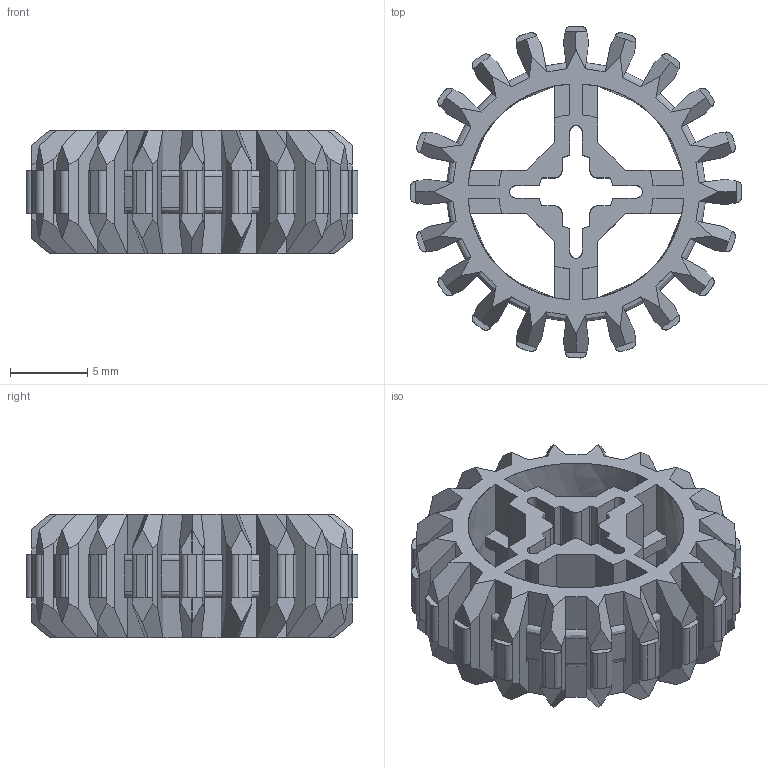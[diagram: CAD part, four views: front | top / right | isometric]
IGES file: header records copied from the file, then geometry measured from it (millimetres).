
Start section: C
Global section: file name: Sand_4514555_AVV.iges; native system: By Siemens PLM Incorporated; preprocessor: XPlus GENERIC/IGES 26.1.183; author: Author; organization: Title; date: 20250722.000424; units: millimetre
Bounding box: 21.5 x 21.5 x 8 mm (x, y, z)
Surface area: 2373.6 mm2 (no closed solid volume)
Topology: 0 solids, 0 shells, 560 faces, 3212 edges, 3212 vertices
Faces by surface type: bspline 560
